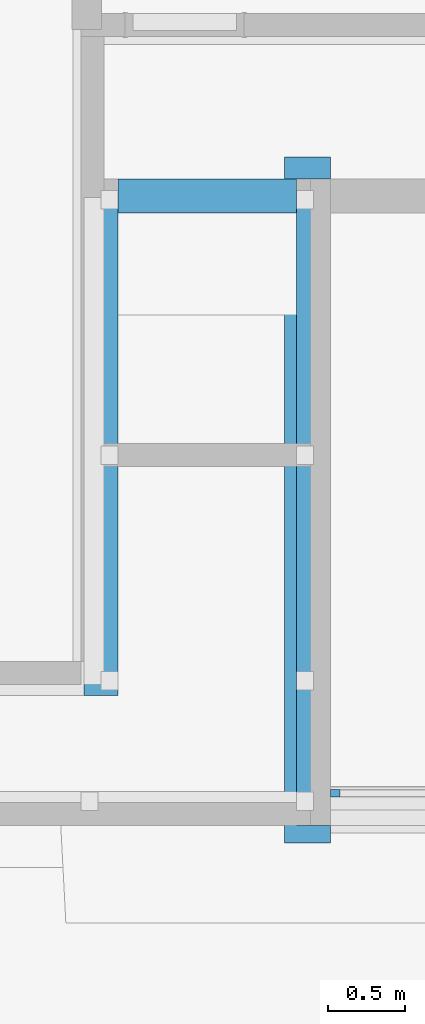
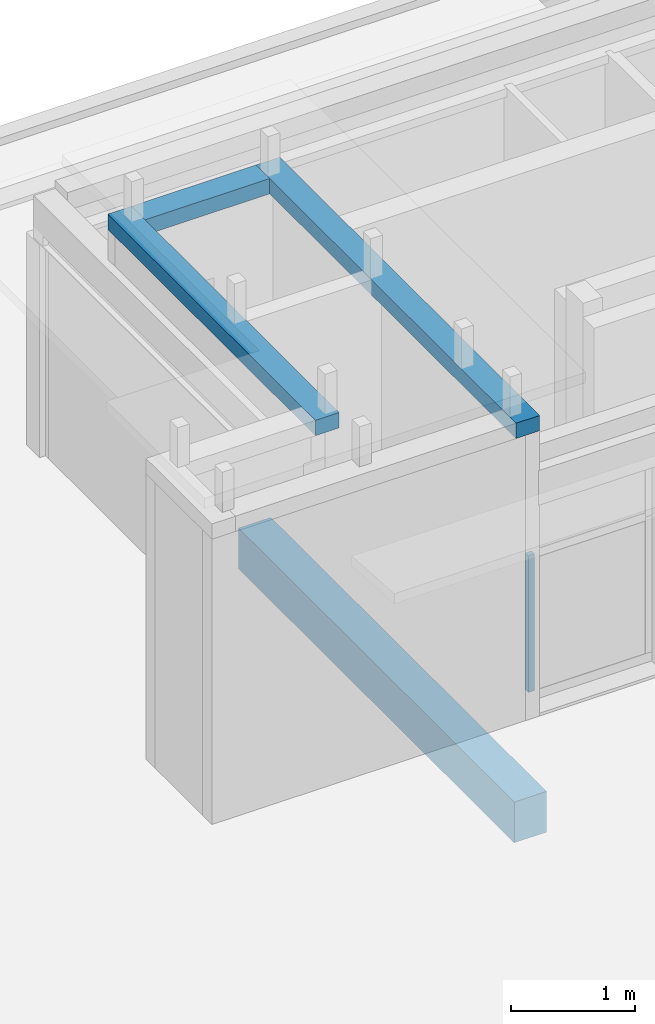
# One storey, part 4 of 49: 4 beams, 1 member, 1 element without a shape of its own.
"""IFC4 building model written with IfcOpenShell, lengths in metres."""

from ifc_helpers import new_model, entity, si_unit, converted_unit, derived_unit, direction, frame, origin, place, context, subcontext, project, spatial, indexed_curve, outline, extrude, source, transform, mapped, material, type_object, type_shapes, element, aggregate, save


model = new_model("IFC4")

# Units and contexts
model_context = context("Model", 3, precision=1e-05, world=origin(), true_north=direction((6.12303176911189e-17, 1.0)))
body_context = subcontext(model_context, "Body", "Model", "MODEL_VIEW")
ifc_project = project(units=[si_unit("LENGTHUNIT", "METRE"), si_unit("AREAUNIT", "SQUARE_METRE"), si_unit("VOLUMEUNIT", "CUBIC_METRE"), converted_unit("PLANEANGLEUNIT", "DEGREE", entity("IfcRatioMeasure", 0.0174532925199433), si_unit("PLANEANGLEUNIT", "RADIAN"), dimensions=[0, 0, 0, 0, 0, 0, 0]), si_unit("MASSUNIT", "GRAM", prefix="KILO"), derived_unit("MASSDENSITYUNIT", [(si_unit("MASSUNIT", "GRAM", prefix="KILO"), 1), (si_unit("LENGTHUNIT", "METRE"), -3)]), derived_unit("MOMENTOFINERTIAUNIT", [(si_unit("LENGTHUNIT", "METRE"), 4)]), si_unit("TIMEUNIT", "SECOND"), si_unit("FREQUENCYUNIT", "HERTZ"), si_unit("THERMODYNAMICTEMPERATUREUNIT", "DEGREE_CELSIUS"), derived_unit("THERMALTRANSMITTANCEUNIT", [(si_unit("MASSUNIT", "GRAM", prefix="KILO"), 1), (si_unit("THERMODYNAMICTEMPERATUREUNIT", "KELVIN"), -1), (si_unit("TIMEUNIT", "SECOND"), -3)]), derived_unit("VOLUMETRICFLOWRATEUNIT", [(si_unit("LENGTHUNIT", "METRE"), 3), (si_unit("TIMEUNIT", "SECOND"), -1)]), si_unit("ELECTRICCURRENTUNIT", "AMPERE"), si_unit("ELECTRICVOLTAGEUNIT", "VOLT"), si_unit("POWERUNIT", "WATT"), si_unit("FORCEUNIT", "NEWTON", prefix="KILO"), si_unit("ILLUMINANCEUNIT", "LUX"), si_unit("LUMINOUSFLUXUNIT", "LUMEN"), si_unit("LUMINOUSINTENSITYUNIT", "CANDELA"), derived_unit("USERDEFINED", [(si_unit("MASSUNIT", "GRAM", prefix="KILO"), -1), (si_unit("LENGTHUNIT", "METRE"), -2), (si_unit("TIMEUNIT", "SECOND"), 3), (si_unit("LUMINOUSFLUXUNIT", "LUMEN"), 1)]), derived_unit("LINEARVELOCITYUNIT", [(si_unit("LENGTHUNIT", "METRE"), 1), (si_unit("TIMEUNIT", "SECOND"), -1)]), si_unit("PRESSUREUNIT", "PASCAL"), derived_unit("USERDEFINED", [(si_unit("LENGTHUNIT", "METRE"), -2), (si_unit("MASSUNIT", "GRAM", prefix="KILO"), 1), (si_unit("TIMEUNIT", "SECOND"), -2)]), derived_unit("LINEARFORCEUNIT", [(si_unit("MASSUNIT", "GRAM", prefix="KILO"), 1), (si_unit("LENGTHUNIT", "METRE"), 1), (si_unit("TIMEUNIT", "SECOND"), -2), (si_unit("LENGTHUNIT", "METRE"), -1)]), derived_unit("PLANARFORCEUNIT", [(si_unit("MASSUNIT", "GRAM", prefix="KILO"), 1), (si_unit("LENGTHUNIT", "METRE"), 1), (si_unit("TIMEUNIT", "SECOND"), -2), (si_unit("LENGTHUNIT", "METRE"), -2)])], contexts=[model_context])

# Site, building, storey
site_placement = place(None, origin())
site = spatial("IfcSite", under=ifc_project, at=site_placement, Name="Default", CompositionType="ELEMENT")
building_placement = place(site_placement, origin())
building = spatial("IfcBuilding", under=site, at=building_placement, Name="HOTEL CONSULAIRE BOULOGNE SUR MER", CompositionType="ELEMENT")
storey_placement = place(building_placement, frame((0.0, 0.0, 6.81974152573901)))
storey = spatial("IfcBuildingStorey", under=building, at=storey_placement, Name="Niveau 2", CompositionType="ELEMENT", Elevation=6.81974152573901)

# Beam
ifc_material_1 = material(Name="Béton - Béton coulé sur place", Category="Béton")
beam_type_1 = type_object("IfcBeamType", Name="Poutre rectangulaire - Béton:300X400", PredefinedType="BEAM", material=ifc_material_1)
shared_shape_1 = source(origin(), body_context, "Body", "SweptSolid", [
    extrude(outline(indexed_curve([(-0.15, -0.2), (0.15, -0.2), (0.15, 0.2), (-0.15, 0.2), (-0.15, -0.2)], self_intersect=False)), frame((1.60747131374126, -19.9272782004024, 6.58974152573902), z_axis=(0.0, 1.0, 0.0), x_axis=(-1.0, 0.0, 0.0)), (0.0, 0.0, 1.0), 4.4344),
])
type_shapes(beam_type_1, [shared_shape_1])
beam_1_placement = place(storey_placement, frame((0.0, 0.0, -6.81974152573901)))
element("IfcBeam", 1, at=beam_1_placement, inside=storey, type_object=beam_type_1, material=ifc_material_1, Name="Poutre rectangulaire - Béton:300X400", ObjectType="Poutre rectangulaire - Béton:300X400", PredefinedType="BEAM", context=body_context, shape_type="MappedRepresentation", body=[
    mapped(shared_shape_1, transform((0.0, 0.0, 0.0), scale=1.0)),
])

# Curtain wall, member
curtain_wall_type = type_object("IfcCurtainWallType", Name="Mur-rideau:Simple panneau", PredefinedType="NOTDEFINED")
curtain_wall_placement = place(storey_placement, frame((0.0, 0.0, -6.81974152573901)))
curtain_wall = element("IfcCurtainWall", 2, at=curtain_wall_placement, inside=storey, type_object=curtain_wall_type, Name="Mur-rideau:Simple panneau", ObjectType="Mur-rideau:Simple panneau", PredefinedType="NOTDEFINED")
ifc_material_2 = material(Name="PVC - Blanc", Category="Plastique")
member_type = type_object("IfcMemberType", Name="Meneau rectangulaire:50 x 30", PredefinedType="MULLION", material=ifc_material_2)
shared_shape_2 = source(origin(), body_context, "Body", "SweptSolid", [
    extrude(outline(indexed_curve([(-0.025, -0.03), (0.025, -0.03), (0.025, 0.03), (-0.025, 0.03), (-0.025, -0.03)], self_intersect=False)), frame((-0.03, -0.025, -1.342), z_axis=(0.0, 0.0, 1.0), x_axis=(0.0, -1.0, 0.0)), (0.0, 0.0, 1.0), 1.342),
])
type_shapes(member_type, [shared_shape_2])
member_placement = place(storey_placement, frame((1.75747131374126, -19.6319143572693, 2.102), z_axis=(0.0, 0.0, 1.0), x_axis=(-1.0, 0.0, 0.0)))
member = element("IfcMember", 3, at=member_placement, type_object=member_type, material=ifc_material_2, Name="Meneau rectangulaire:50 x 30", ObjectType="Meneau rectangulaire:50 x 30", PredefinedType="MULLION", context=body_context, shape_type="MappedRepresentation", body=[
    mapped(shared_shape_2, transform((0.0, 0.0, 0.0), scale=1.0)),
])
aggregate(curtain_wall, [member])

# Beams
beam_type_2 = type_object("IfcBeamType", Name="Poutre rectangulaire - Béton:220x150", PredefinedType="BEAM", material=ifc_material_1)
shared_shape_3 = source(origin(), body_context, "Body", "SweptSolid", [
    extrude(outline(indexed_curve([(-0.11, -0.0750000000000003), (0.11, -0.0750000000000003), (0.11, 0.0750000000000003), (-0.11, 0.0750000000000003), (-0.11, -0.0750000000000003)], self_intersect=False)), frame((0.271635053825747, -18.9746212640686, 10.336641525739), z_axis=(0.0, 1.0, 0.0), x_axis=(-1.0, 0.0, 0.0)), (0.0, 0.0, 1.0), 3.33937922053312),
])
type_shapes(beam_type_2, [shared_shape_3])
beam_2_placement = place(storey_placement, frame((0.0, 0.0, -6.81974152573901)))
element("IfcBeam", 4, at=beam_2_placement, inside=storey, type_object=beam_type_2, material=ifc_material_1, Name="Poutre rectangulaire - Béton:220x150", ObjectType="Poutre rectangulaire - Béton:220x150", PredefinedType="BEAM", context=body_context, shape_type="MappedRepresentation", body=[
    mapped(shared_shape_3, transform((0.0, 0.0, 0.0), scale=1.0)),
])
beam_type_3 = type_object("IfcBeamType", Name="Poutre rectangulaire - Béton:220x150", PredefinedType="BEAM", material=ifc_material_1)
shared_shape_4 = source(origin(), body_context, "Body", "SweptSolid", [
    extrude(outline(indexed_curve([(-0.11, -0.0750000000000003), (0.11, -0.0750000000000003), (0.11, 0.0750000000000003), (-0.11, 0.0750000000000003), (-0.11, -0.0750000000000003)], self_intersect=False)), frame((1.64747131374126, -19.815909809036, 10.336641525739), z_axis=(0.0, 1.0, 0.0), x_axis=(-1.0, 0.0, 0.0)), (0.0, 0.0, 1.0), 4.18066776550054),
])
type_shapes(beam_type_3, [shared_shape_4])
beam_3_placement = place(storey_placement, frame((0.0, 0.0, -6.81974152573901)))
element("IfcBeam", 5, at=beam_3_placement, inside=storey, type_object=beam_type_3, material=ifc_material_1, Name="Poutre rectangulaire - Béton:220x150", ObjectType="Poutre rectangulaire - Béton:220x150", PredefinedType="BEAM", context=body_context, shape_type="MappedRepresentation", body=[
    mapped(shared_shape_4, transform((0.0, 0.0, 0.0), scale=1.0)),
])
beam_type_4 = type_object("IfcBeamType", Name="Poutre rectangulaire - Béton:220x150", PredefinedType="BEAM", material=ifc_material_1)
shared_shape_5 = source(origin(), body_context, "Body", "SweptSolid", [
    extrude(outline(indexed_curve([(-0.0750000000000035, -0.109999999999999), (0.0749999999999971, -0.109999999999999), (0.0750000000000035, 0.110000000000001), (-0.0749999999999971, 0.110000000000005), (-0.0750000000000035, -0.109999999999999)], self_intersect=False)), frame((0.381635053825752, -15.7452420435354, 10.336641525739), z_axis=(1.0, 0.0, 0.0), x_axis=(0.0, 0.0, -1.0)), (0.0, 0.0, 1.0), 1.15583625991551),
])
type_shapes(beam_type_4, [shared_shape_5])
beam_4_placement = place(storey_placement, frame((0.0, 0.0, -6.81974152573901)))
element("IfcBeam", 6, at=beam_4_placement, inside=storey, type_object=beam_type_4, material=ifc_material_1, Name="Poutre rectangulaire - Béton:220x150", ObjectType="Poutre rectangulaire - Béton:220x150", PredefinedType="BEAM", context=body_context, shape_type="MappedRepresentation", body=[
    mapped(shared_shape_5, transform((0.0, 0.0, 0.0), scale=1.0)),
])

save(model, "model.ifc")
